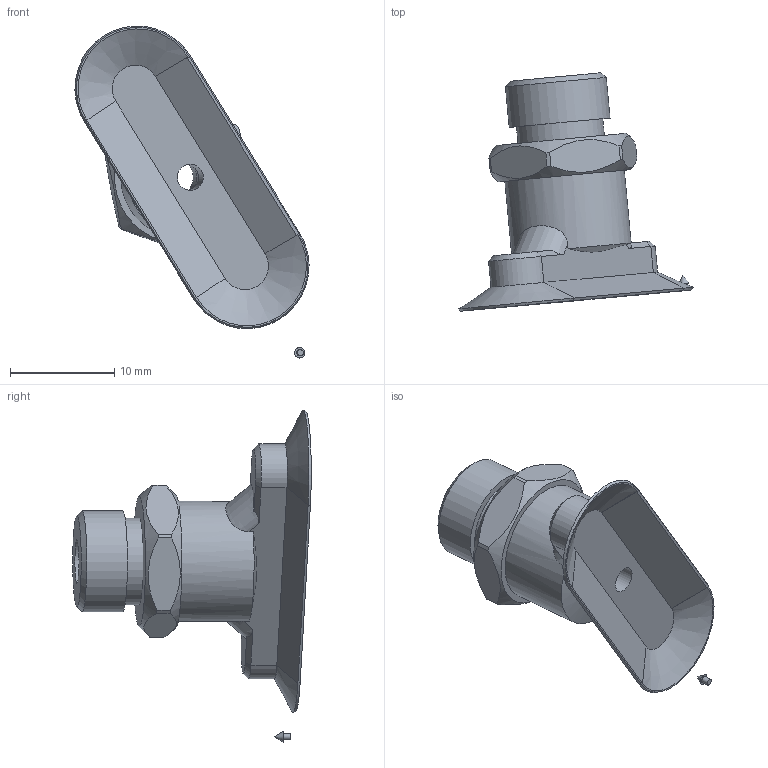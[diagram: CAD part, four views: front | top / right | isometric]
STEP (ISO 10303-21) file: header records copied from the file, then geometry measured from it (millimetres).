
FILE_DESCRIPTION(('STEP AP214'),'1');
FILE_NAME('KIT.08.27.L36.1A.stp','2019-05-27T10:06:49',(' '),(' '),'Spatial InterOp 3D',' ',' ');
FILE_SCHEMA(('AUTOMOTIVE_DESIGN { 1 0 10303 214 1 1 1 1 }'));
Length unit declared in the file: millimetre
Products named in the file (5): CA.08.27.003; KIT.08.27.L36.1A; CA.08.09.001.AL
Assembly tree (4 placements, depth 3):
  KIT.08.27.L36.1A
    (unnamed)
      CA.08.27.003
      CA.08.27.003
    CA.08.09.001.AL
Bounding box: 22.43 x 22.85 x 31.8 mm (x, y, z)
Volume: 1951.3 mm3; surface area: 2374.1 mm2
Topology: 3 solids, 3 shells, 83 faces, 182 edges, 115 vertices
Faces by surface type: plane 42, cylinder 22, cone 17, extrusion 2
Full cylindrical faces by diameter (mm): 0.6 x1, 2.5 x1, 2.8 x1, 4 x1, 4.2 x1, 5.5 x1, 6.4 x1, 7 x2, 7.4 x1, 8 x1, 8.3 x1, 9.7 x1, 11.5 x1
Entity records: 3292 total; most frequent: CARTESIAN_POINT 808, DIRECTION 367, ORIENTED_EDGE 308, EDGE_CURVE 154, AXIS2_PLACEMENT_3D 148, EDGE_LOOP 117, VERTEX_POINT 108, FACE_OUTER_BOUND 97
